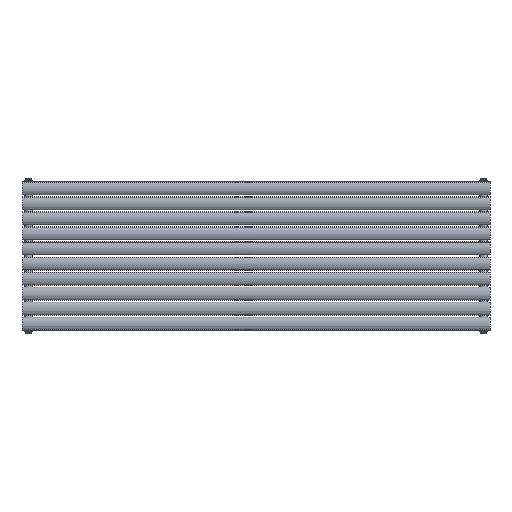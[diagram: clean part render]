
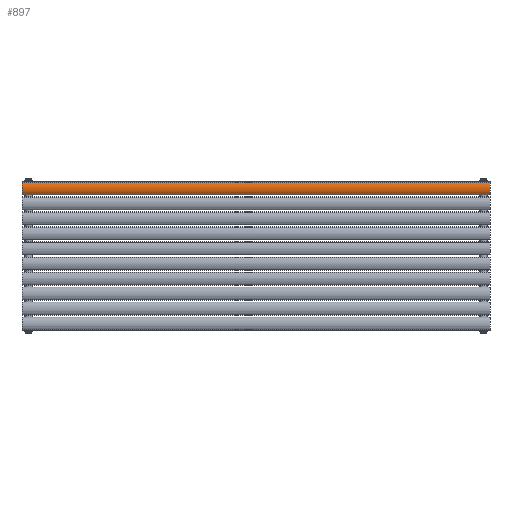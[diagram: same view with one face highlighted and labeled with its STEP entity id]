
A CAD part, top view. The second image highlights one B-rep face of the part: STEP entity #897.
In plain terms, the highlighted cylindrical face has radius 39.5 mm (diameter 79 mm), a partial arc.
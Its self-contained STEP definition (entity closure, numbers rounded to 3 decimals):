
#95=LINE('',#2266,#127);
#96=LINE('',#2270,#128);
#127=VECTOR('',#1152,10.);
#128=VECTOR('',#1155,10.);
#205=CIRCLE('',#1001,39.5);
#206=CIRCLE('',#1002,39.5);
#297=FACE_OUTER_BOUND('',#382,.T.);
#382=EDGE_LOOP('',(#740,#741,#742,#743));
#498=VERTEX_POINT('',#2264);
#499=VERTEX_POINT('',#2265);
#500=VERTEX_POINT('',#2267);
#501=VERTEX_POINT('',#2269);
#587=EDGE_CURVE('',#498,#499,#95,.T.);
#588=EDGE_CURVE('',#500,#498,#205,.T.);
#589=EDGE_CURVE('',#501,#500,#96,.T.);
#590=EDGE_CURVE('',#499,#501,#206,.T.);
#740=ORIENTED_EDGE('',*,*,#587,.F.);
#741=ORIENTED_EDGE('',*,*,#588,.F.);
#742=ORIENTED_EDGE('',*,*,#589,.F.);
#743=ORIENTED_EDGE('',*,*,#590,.F.);
#868=CYLINDRICAL_SURFACE('',#1000,39.5);
#897=ADVANCED_FACE('',(#297),#868,.T.);
#1000=AXIS2_PLACEMENT_3D('',#2263,#1150,#1151);
#1001=AXIS2_PLACEMENT_3D('',#2268,#1153,#1154);
#1002=AXIS2_PLACEMENT_3D('',#2271,#1156,#1157);
#1150=DIRECTION('center_axis',(0.,0.,1.));
#1151=DIRECTION('ref_axis',(-0.552,-0.834,0.));
#1152=DIRECTION('',(0.,0.,-1.));
#1153=DIRECTION('center_axis',(0.,0.,1.));
#1154=DIRECTION('ref_axis',(-0.552,-0.834,0.));
#1155=DIRECTION('',(0.,0.,1.));
#1156=DIRECTION('center_axis',(0.,0.,-1.));
#1157=DIRECTION('ref_axis',(-0.552,-0.834,0.));
#2263=CARTESIAN_POINT('Origin',(0.,14.5,0.));
#2264=CARTESIAN_POINT('',(21.816,-18.429,900.));
#2265=CARTESIAN_POINT('',(21.816,-18.429,-900.));
#2266=CARTESIAN_POINT('',(21.816,-18.429,0.));
#2267=CARTESIAN_POINT('',(-21.816,-18.429,900.));
#2268=CARTESIAN_POINT('Origin',(0.,14.5,900.));
#2269=CARTESIAN_POINT('',(-21.816,-18.429,-900.));
#2270=CARTESIAN_POINT('',(-21.816,-18.429,0.));
#2271=CARTESIAN_POINT('Origin',(0.,14.5,-900.));
